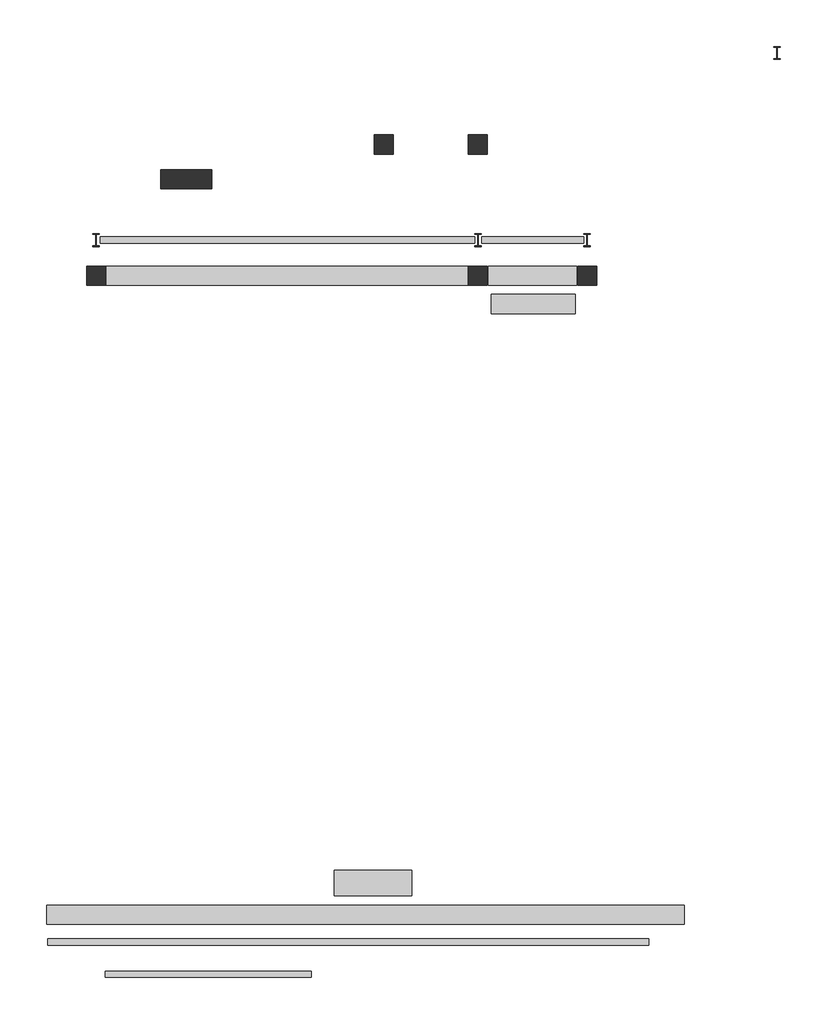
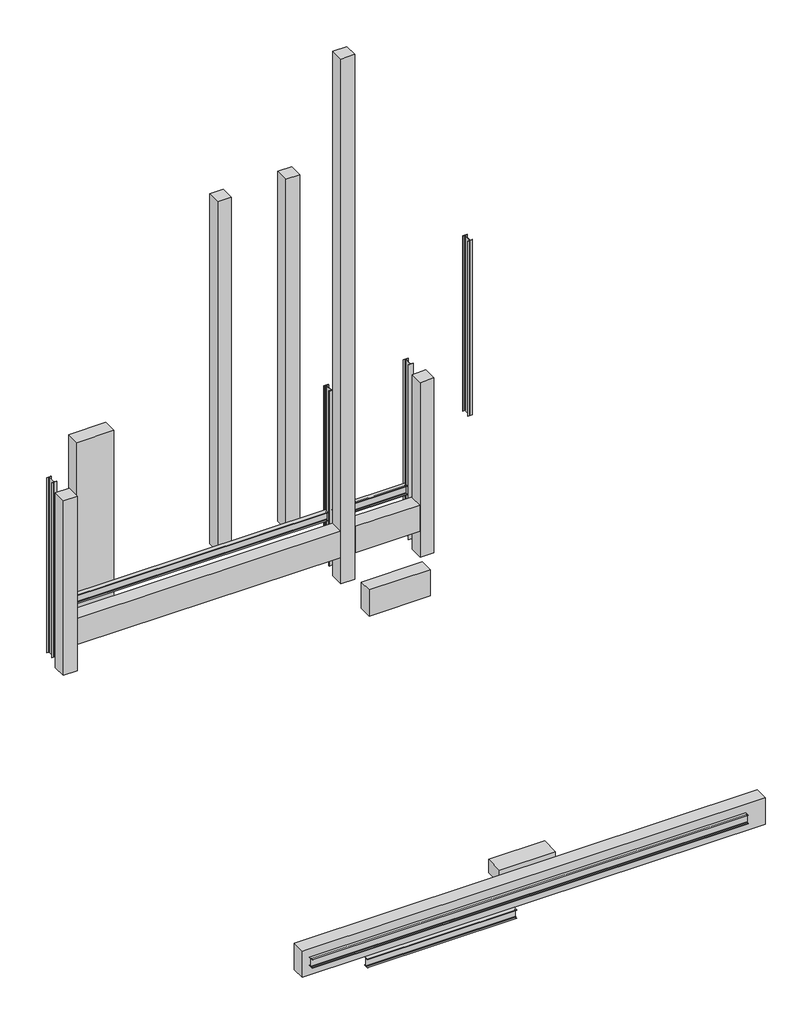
# One storey: 10 columns, 9 beams.
"""IFC4 building model written with IfcOpenShell, lengths in millimetres."""

from ifc_helpers import new_model, si_unit, point, frame, frame_2d, origin, origin_with_axes, place, context, project, spatial, polyline, circle_curve, trimmed, segment, composite_curve, outline, extrude, transform, mapped, element, save
from components import beam_f466d613, beam_4ad44b27, beam_b8a4c279, beam_fb663292, i_20b_8d3c7cb6, i_20b1_4eef6bfe, column_cd9b504c, column_d2dc2f65

model = new_model("IFC4")

# Units and contexts
model_context = context("Model", 3, world=origin())
ifc_project = project(units=[si_unit("LENGTHUNIT", "METRE", prefix="MILLI")], contexts=[model_context])

# Site, building, storey
site = spatial("IfcSite", under=ifc_project)
building = spatial("IfcBuilding", under=site)
storey = spatial("IfcBuildingStorey", under=building, Name="Уровень 1", Elevation=0.0)

# Beams
placement = place(None, origin())
element("IfcBeam", 1, ObjectType="Бетон-Балка прямоугольного сечения : 300 x 600 мм", at=placement, inside=storey, context=model_context, shape_type="SweptSolid", body=[
    extrude(outline(polyline([(-7452.0146955, 5816.056696), (-7452.0146955, 5516.056696), (-13126.6146955, 5516.056696), (-13126.6146955, 5816.056696), (-7452.0146955, 5816.056696)])), frame((0.0, 0.0, 600.0), z_axis=(0.0, 0.0, 1.0), x_axis=(1.0, 0.0, 0.0)), (0.0, 0.0, 1.0), 600.0),
])
element("IfcBeam", 2, ObjectType="Бетон-Балка прямоугольного сечения : 300 x 600 мм", at=placement, inside=storey, context=model_context, shape_type="SweptSolid", body=[
    extrude(outline(polyline([(-5735.446038, 5816.056696), (-5735.446038, 5516.056696), (-7126.6146955, 5516.056696), (-7126.6146955, 5816.056696), (-5735.446038, 5816.056696)])), frame((0.0, 0.0, 600.0), z_axis=(0.0, 0.0, 1.0), x_axis=(1.0, 0.0, 0.0)), (0.0, 0.0, 1.0), 600.0),
])
beam_shape = beam_f466d613(model_context)
element("IfcBeam", 3, ObjectType="11_Балки_Опора : 09_Балки_Начало", at=placement, inside=storey, context=model_context, shape_type="MappedRepresentation", body=[
    mapped(beam_shape, transform((-8987.5441013, -3874.506463, -150.0), x_axis=(1.0, 0.0, 0.0), y_axis=(0.0, 1.0, 0.0), z_axis=(0.0, 0.0, 1.0))),
])
beam_2_shape = beam_4ad44b27(model_context)
element("IfcBeam", 4, ObjectType="Бетон-Балка прямоугольного сечения : 300 x 600 мм", at=placement, inside=storey, context=model_context, shape_type="MappedRepresentation", body=[
    mapped(beam_2_shape, transform((-9057.5441013, -4374.506463, -300.0), x_axis=(1.0, 0.0, 0.0), y_axis=(0.0, 1.0, 0.0), z_axis=(0.0, 0.0, 1.0))),
])
beam_3_shape = beam_b8a4c279(model_context)
element("IfcBeam", 5, ObjectType="Бетон-Балка прямоугольного сечения : 300 x 600 мм", at=placement, inside=storey, context=model_context, shape_type="MappedRepresentation", body=[
    mapped(beam_3_shape, transform((-6421.6500402, 5221.1586139, -300.0), x_axis=(1.0, 0.0, 0.0), y_axis=(0.0, 1.0, 0.0), z_axis=(0.0, 0.0, 1.0))),
])
beam_4_shape = beam_fb663292(model_context)
element("IfcBeam", 6, ObjectType="15_Балки_Окончание КМ : Семейство9", at=placement, inside=storey, context=model_context, shape_type="MappedRepresentation", body=[
    mapped(beam_4_shape, transform((-11529.0441013, -5312.661906, -97.0), x_axis=(1.0, 0.0, 0.0), y_axis=(0.0, 1.0, 0.0), z_axis=(0.0, 0.0, 1.0))),
])
i_20b_shape = i_20b_8d3c7cb6(model_context)
element("IfcBeam", 7, ObjectType="Двутавровая балка с параллельными гранями полок типа Б (ТУ 14-2-24-72) Балки : I 20B", at=placement, inside=storey, context=model_context, shape_type="MappedRepresentation", body=[
    mapped(i_20b_shape, transform((-9327.5739549, -4803.661242, -97.0), x_axis=(1.0, 0.0, 0.0), y_axis=(0.0, 1.0, 0.0), z_axis=(0.0, 0.0, 1.0))),
])
element("IfcBeam", 8, ObjectType="Двутавровая балка с параллельными гранями полок типа Б (ТУ 14-2-24-72) Балки : I 20B1", at=placement, inside=storey, context=model_context, shape_type="SweptSolid", body=[
    extrude(outline(composite_curve([segment(polyline([(6273.8203862, 1009.6), (6273.8203862, 1002.0), (6173.8203862, 1002.0), (6173.8203862, 1009.6), (6210.2203862, 1009.6)]), True, "CONTINUOUS"), segment(trimmed(circle_curve(frame_2d((6210.2203862, 1020.6)), 11.0), [point((6210.2203862, 1009.6))], [point((6221.2203862, 1020.6))], True, "CARTESIAN"), True, "CONTINUOUS"), segment(polyline([(6221.2203862, 1020.6), (6221.2203862, 1181.4)]), True, "CONTINUOUS"), segment(trimmed(circle_curve(frame_2d((6210.2203862, 1181.4)), 11.0), [point((6221.2203862, 1181.4))], [point((6210.2203862, 1192.4))], True, "CARTESIAN"), True, "CONTINUOUS"), segment(polyline([(6210.2203862, 1192.4), (6173.8203862, 1192.4), (6173.8203862, 1200.0), (6273.8203862, 1200.0), (6273.8203862, 1192.4), (6237.4203862, 1192.4)]), True, "CONTINUOUS"), segment(trimmed(circle_curve(frame_2d((6237.4203862, 1181.4)), 11.0), [point((6237.4203862, 1192.4))], [point((6226.4203862, 1181.4))], True, "CARTESIAN"), True, "CONTINUOUS"), segment(polyline([(6226.4203862, 1181.4), (6226.4203862, 1020.6)]), True, "CONTINUOUS"), segment(trimmed(circle_curve(frame_2d((6237.4203862, 1020.6)), 11.0), [point((6226.4203862, 1020.6))], [point((6237.4203862, 1009.6))], True, "CARTESIAN"), True, "CONTINUOUS"), segment(polyline([(6237.4203862, 1009.6), (6273.8203862, 1009.6)]), True, "CONTINUOUS")], self_intersect=False)), frame((-13226.3146955, 0.0, 0.0), z_axis=(1.0, 0.0, 0.0), x_axis=(0.0, 1.0, 0.0)), (0.0, 0.0, 1.0), 5887.0),
])
i_20b1_shape = i_20b1_4eef6bfe(model_context)
element("IfcBeam", 9, ObjectType="Двутавровая балка с параллельными гранями полок типа Б (ТУ 14-2-24-72) Балки : I 20B1", at=placement, inside=storey, context=model_context, shape_type="MappedRepresentation", body=[
    mapped(i_20b1_shape, transform((-6431.0303668, 6223.8203862, 1101.0), x_axis=(1.0, 0.0, 0.0), y_axis=(0.0, 1.0, 0.0), z_axis=(0.0, 0.0, 1.0))),
])

# Columns
element("IfcColumn", 10, ObjectType="Бетон-Квадратного сечения-Колонна : 300 x 300 мм", at=placement, inside=storey, context=model_context, shape_type="SweptSolid", body=[
    extrude(outline(polyline([(-13139.3146955, 5816.056696), (-13139.3146955, 5516.056696), (-13439.3146955, 5516.056696), (-13439.3146955, 5816.056696), (-13139.3146955, 5816.056696)])), origin_with_axes(), (0.0, 0.0, 1.0), 4000.0),
])
element("IfcColumn", 11, ObjectType="Бетон-Квадратного сечения-Колонна : 300 x 300 мм", at=placement, inside=storey, context=model_context, shape_type="SweptSolid", body=[
    extrude(outline(polyline([(-7139.3146955, 5816.056696), (-7139.3146955, 5516.056696), (-7439.3146955, 5516.056696), (-7439.3146955, 5816.056696), (-7139.3146955, 5816.056696)])), origin_with_axes(), (0.0, 0.0, 1.0), 12000.0),
])
element("IfcColumn", 12, ObjectType="Бетон-Квадратного сечения-Колонна : 300 x 300 мм", at=placement, inside=storey, context=model_context, shape_type="SweptSolid", body=[
    extrude(outline(polyline([(-5422.746038, 5816.056696), (-5422.746038, 5516.056696), (-5722.746038, 5516.056696), (-5722.746038, 5816.056696), (-5422.746038, 5816.056696)])), origin_with_axes(), (0.0, 0.0, 1.0), 4000.0),
])
column_shape = column_cd9b504c(model_context)
element("IfcColumn", 13, ObjectType="Бетон-Квадратного сечения-Колонна : 300 x 300 мм", at=placement, inside=storey, context=model_context, shape_type="MappedRepresentation", body=[
    mapped(column_shape, transform((-7289.3146955, 7727.176867, 0.0), x_axis=(1.0, 0.0, 0.0), y_axis=(0.0, 1.0, 0.0), z_axis=(0.0, 0.0, 1.0))),
])
element("IfcColumn", 14, ObjectType="Бетон-Квадратного сечения-Колонна : 300 x 300 мм", at=placement, inside=storey, context=model_context, shape_type="MappedRepresentation", body=[
    mapped(column_shape, transform((-8766.032868, 7727.176867, 0.0), x_axis=(1.0, 0.0, 0.0), y_axis=(0.0, 1.0, 0.0), z_axis=(0.0, 0.0, 1.0))),
])
column_2_shape = column_d2dc2f65(model_context)
element("IfcColumn", 15, ObjectType="02_Колонны_Создание : 02_Колонны_Создание", at=placement, inside=storey, context=model_context, shape_type="MappedRepresentation", body=[
    mapped(column_2_shape, transform((-11874.434963, 7183.5612437, 0.0), x_axis=(1.0, 0.0, 0.0), y_axis=(0.0, 1.0, 0.0), z_axis=(0.0, 0.0, 1.0))),
])
element("IfcColumn", 16, ObjectType="Двутавровая балка с непараллельными гранями полок (ГОСТ 8239-72)-Колонна : I 20", at=placement, inside=storey, context=model_context, shape_type="SweptSolid", body=[
    extrude(outline(composite_curve([segment(polyline([(-13339.3146955, 6315.4203862), (-13339.3146955, 6323.8203862), (-13239.3146955, 6323.8203862), (-13239.3146955, 6315.4203862), (-13277.2146955, 6315.4203862)]), True, "CONTINUOUS"), segment(trimmed(circle_curve(frame_2d((-13277.2146955, 6305.9203862)), 9.5), [point((-13277.2146955, 6315.4203862))], [point((-13286.7146955, 6305.9203862))], True, "CARTESIAN"), True, "CONTINUOUS"), segment(polyline([(-13286.7146955, 6305.9203862), (-13286.7146955, 6141.7203862)]), True, "CONTINUOUS"), segment(trimmed(circle_curve(frame_2d((-13277.2146955, 6141.7203862)), 9.5), [point((-13286.7146955, 6141.7203862))], [point((-13277.2146955, 6132.2203862))], True, "CARTESIAN"), True, "CONTINUOUS"), segment(polyline([(-13277.2146955, 6132.2203862), (-13239.3146955, 6132.2203862), (-13239.3146955, 6123.8203862), (-13339.3146955, 6123.8203862), (-13339.3146955, 6132.2203862), (-13301.4146955, 6132.2203862)]), True, "CONTINUOUS"), segment(trimmed(circle_curve(frame_2d((-13301.4146955, 6141.7203862)), 9.5), [point((-13301.4146955, 6132.2203862))], [point((-13291.9146955, 6141.7203862))], True, "CARTESIAN"), True, "CONTINUOUS"), segment(polyline([(-13291.9146955, 6141.7203862), (-13291.9146955, 6305.9203862)]), True, "CONTINUOUS"), segment(trimmed(circle_curve(frame_2d((-13301.4146955, 6305.9203862)), 9.5), [point((-13291.9146955, 6305.9203862))], [point((-13301.4146955, 6315.4203862))], True, "CARTESIAN"), True, "CONTINUOUS"), segment(polyline([(-13301.4146955, 6315.4203862), (-13339.3146955, 6315.4203862)]), True, "CONTINUOUS")], self_intersect=False)), origin_with_axes(), (0.0, 0.0, 1.0), 4000.0),
])
element("IfcColumn", 17, ObjectType="Двутавровая балка с непараллельными гранями полок (ГОСТ 8239-72)-Колонна : I 20", at=placement, inside=storey, context=model_context, shape_type="SweptSolid", body=[
    extrude(outline(composite_curve([segment(polyline([(-7339.3146955, 6315.4203862), (-7339.3146955, 6323.8203862), (-7239.3146955, 6323.8203862), (-7239.3146955, 6315.4203862), (-7277.2146955, 6315.4203862)]), True, "CONTINUOUS"), segment(trimmed(circle_curve(frame_2d((-7277.2146955, 6305.9203862)), 9.5), [point((-7277.2146955, 6315.4203862))], [point((-7286.7146955, 6305.9203862))], True, "CARTESIAN"), True, "CONTINUOUS"), segment(polyline([(-7286.7146955, 6305.9203862), (-7286.7146955, 6141.7203862)]), True, "CONTINUOUS"), segment(trimmed(circle_curve(frame_2d((-7277.2146955, 6141.7203862)), 9.5), [point((-7286.7146955, 6141.7203862))], [point((-7277.2146955, 6132.2203862))], True, "CARTESIAN"), True, "CONTINUOUS"), segment(polyline([(-7277.2146955, 6132.2203862), (-7239.3146955, 6132.2203862), (-7239.3146955, 6123.8203862), (-7339.3146955, 6123.8203862), (-7339.3146955, 6132.2203862), (-7301.4146955, 6132.2203862)]), True, "CONTINUOUS"), segment(trimmed(circle_curve(frame_2d((-7301.4146955, 6141.7203862)), 9.5), [point((-7301.4146955, 6132.2203862))], [point((-7291.9146955, 6141.7203862))], True, "CARTESIAN"), True, "CONTINUOUS"), segment(polyline([(-7291.9146955, 6141.7203862), (-7291.9146955, 6305.9203862)]), True, "CONTINUOUS"), segment(trimmed(circle_curve(frame_2d((-7301.4146955, 6305.9203862)), 9.5), [point((-7291.9146955, 6305.9203862))], [point((-7301.4146955, 6315.4203862))], True, "CARTESIAN"), True, "CONTINUOUS"), segment(polyline([(-7301.4146955, 6315.4203862), (-7339.3146955, 6315.4203862)]), True, "CONTINUOUS")], self_intersect=False)), origin_with_axes(), (0.0, 0.0, 1.0), 4000.0),
])
element("IfcColumn", 18, ObjectType="Двутавровая балка с непараллельными гранями полок (ГОСТ 8239-72)-Колонна : I 20", at=placement, inside=storey, context=model_context, shape_type="SweptSolid", body=[
    extrude(outline(composite_curve([segment(polyline([(-2639.3146955, 9257.656696), (-2639.3146955, 9266.056696), (-2539.3146955, 9266.056696), (-2539.3146955, 9257.656696), (-2577.2146955, 9257.656696)]), True, "CONTINUOUS"), segment(trimmed(circle_curve(frame_2d((-2577.2146955, 9248.156696)), 9.5), [point((-2577.2146955, 9257.656696))], [point((-2586.7146955, 9248.156696))], True, "CARTESIAN"), True, "CONTINUOUS"), segment(polyline([(-2586.7146955, 9248.156696), (-2586.7146955, 9083.956696)]), True, "CONTINUOUS"), segment(trimmed(circle_curve(frame_2d((-2577.2146955, 9083.956696)), 9.5), [point((-2586.7146955, 9083.956696))], [point((-2577.2146955, 9074.456696))], True, "CARTESIAN"), True, "CONTINUOUS"), segment(polyline([(-2577.2146955, 9074.456696), (-2539.3146955, 9074.456696), (-2539.3146955, 9066.056696), (-2639.3146955, 9066.056696), (-2639.3146955, 9074.456696), (-2601.4146955, 9074.456696)]), True, "CONTINUOUS"), segment(trimmed(circle_curve(frame_2d((-2601.4146955, 9083.956696)), 9.5), [point((-2601.4146955, 9074.456696))], [point((-2591.9146955, 9083.956696))], True, "CARTESIAN"), True, "CONTINUOUS"), segment(polyline([(-2591.9146955, 9083.956696), (-2591.9146955, 9248.156696)]), True, "CONTINUOUS"), segment(trimmed(circle_curve(frame_2d((-2601.4146955, 9248.156696)), 9.5), [point((-2591.9146955, 9248.156696))], [point((-2601.4146955, 9257.656696))], True, "CARTESIAN"), True, "CONTINUOUS"), segment(polyline([(-2601.4146955, 9257.656696), (-2639.3146955, 9257.656696)]), True, "CONTINUOUS")], self_intersect=False)), origin_with_axes(), (0.0, 0.0, 1.0), 4000.0),
])
element("IfcColumn", 19, ObjectType="Двутавровая балка с непараллельными гранями полок (ГОСТ 8239-72)-Колонна : I 20", at=placement, inside=storey, context=model_context, shape_type="SweptSolid", body=[
    extrude(outline(composite_curve([segment(polyline([(-5622.746038, 6315.4203862), (-5622.746038, 6323.8203862), (-5522.746038, 6323.8203862), (-5522.746038, 6315.4203862), (-5560.646038, 6315.4203862)]), True, "CONTINUOUS"), segment(trimmed(circle_curve(frame_2d((-5560.646038, 6305.9203862)), 9.5), [point((-5560.646038, 6315.4203862))], [point((-5570.146038, 6305.9203862))], True, "CARTESIAN"), True, "CONTINUOUS"), segment(polyline([(-5570.146038, 6305.9203862), (-5570.146038, 6141.7203862)]), True, "CONTINUOUS"), segment(trimmed(circle_curve(frame_2d((-5560.646038, 6141.7203862)), 9.5), [point((-5570.146038, 6141.7203862))], [point((-5560.646038, 6132.2203862))], True, "CARTESIAN"), True, "CONTINUOUS"), segment(polyline([(-5560.646038, 6132.2203862), (-5522.746038, 6132.2203862), (-5522.746038, 6123.8203862), (-5622.746038, 6123.8203862), (-5622.746038, 6132.2203862), (-5584.846038, 6132.2203862)]), True, "CONTINUOUS"), segment(trimmed(circle_curve(frame_2d((-5584.846038, 6141.7203862)), 9.5), [point((-5584.846038, 6132.2203862))], [point((-5575.346038, 6141.7203862))], True, "CARTESIAN"), True, "CONTINUOUS"), segment(polyline([(-5575.346038, 6141.7203862), (-5575.346038, 6305.9203862)]), True, "CONTINUOUS"), segment(trimmed(circle_curve(frame_2d((-5584.846038, 6305.9203862)), 9.5), [point((-5575.346038, 6305.9203862))], [point((-5584.846038, 6315.4203862))], True, "CARTESIAN"), True, "CONTINUOUS"), segment(polyline([(-5584.846038, 6315.4203862), (-5622.746038, 6315.4203862)]), True, "CONTINUOUS")], self_intersect=False)), origin_with_axes(), (0.0, 0.0, 1.0), 4000.0),
])

save(model, "model.ifc")
